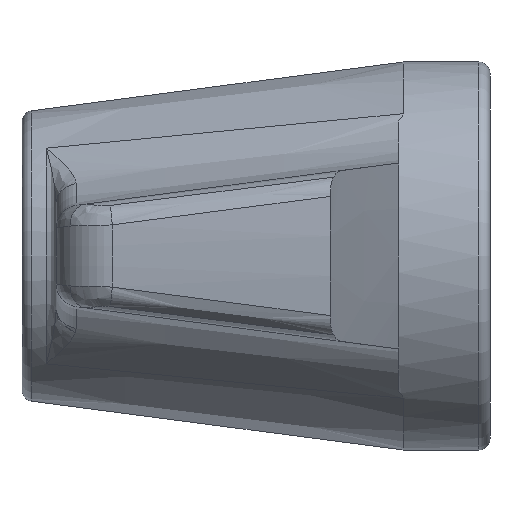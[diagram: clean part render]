
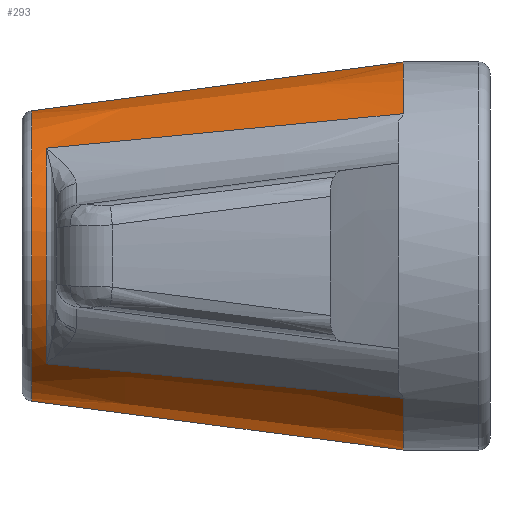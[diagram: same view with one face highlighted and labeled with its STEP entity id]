
A CAD part, left-side view. The second image highlights one B-rep face of the part: STEP entity #293.
In plain terms, the highlighted conical face has half-angle 7.5 degrees and reference radius 6.5 mm.
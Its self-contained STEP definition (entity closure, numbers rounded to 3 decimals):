
#227 = EDGE_CURVE ( 'NONE', #501, #545, #1578, .T. ) ;
#232 = VERTEX_POINT ( 'NONE', #1588 ) ;
#256 = ORIENTED_EDGE ( 'NONE', *, *, #257, .T. ) ;
#257 = EDGE_CURVE ( 'NONE', #269, #258, #1526, .T. ) ;
#258 = VERTEX_POINT ( 'NONE', #1522 ) ;
#267 = ORIENTED_EDGE ( 'NONE', *, *, #268, .F. ) ;
#268 = EDGE_CURVE ( 'NONE', #269, #288, #1633, .T. ) ;
#269 = VERTEX_POINT ( 'NONE', #1628 ) ;
#279 = VERTEX_POINT ( 'NONE', #1604 ) ;
#280 = VERTEX_POINT ( 'NONE', #1603 ) ;
#282 = ORIENTED_EDGE ( 'NONE', *, *, #283, .T. ) ;
#283 = EDGE_CURVE ( 'NONE', #279, #280, #1560, .T. ) ;
#286 = ORIENTED_EDGE ( 'NONE', *, *, #287, .T. ) ;
#287 = EDGE_CURVE ( 'NONE', #280, #288, #1549, .T. ) ;
#288 = VERTEX_POINT ( 'NONE', #1699 ) ;
#293 = ADVANCED_FACE ( 'NONE', ( #1694 ), #1692, .T. ) ;
#294 = EDGE_LOOP ( 'NONE', ( #282, #286, #267, #256, #500, #572, #544, #496 ) ) ;
#444 = EDGE_CURVE ( 'NONE', #545, #232, #1941, .T. ) ;
#496 = ORIENTED_EDGE ( 'NONE', *, *, #573, .F. ) ;
#497 = EDGE_CURVE ( 'NONE', #258, #232, #2116, .T. ) ;
#500 = ORIENTED_EDGE ( 'NONE', *, *, #497, .T. ) ;
#501 = VERTEX_POINT ( 'NONE', #2110 ) ;
#544 = ORIENTED_EDGE ( 'NONE', *, *, #227, .F. ) ;
#545 = VERTEX_POINT ( 'NONE', #2299 ) ;
#572 = ORIENTED_EDGE ( 'NONE', *, *, #444, .F. ) ;
#573 = EDGE_CURVE ( 'NONE', #279, #501, #2260, .T. ) ;
#1522 = CARTESIAN_POINT ( 'NONE',  ( -4.38, 19.435, -4.725 ) ) ;
#1523 = DIRECTION ( 'NONE',  ( 0.089, 0.991, 0.096 ) ) ;
#1524 = VECTOR ( 'NONE', #1523, 1000. ) ;
#1525 = CARTESIAN_POINT ( 'NONE',  ( -4.419, 19., -4.767 ) ) ;
#1526 = LINE ( 'NONE', #1525, #1524 ) ;
#1546 = DIRECTION ( 'NONE',  ( 0., -0.991, -0.131 ) ) ;
#1547 = VECTOR ( 'NONE', #1546, 1000. ) ;
#1548 = CARTESIAN_POINT ( 'NONE',  ( 0., 19., -6.5 ) ) ;
#1549 = LINE ( 'NONE', #1548, #1547 ) ;
#1556 = DIRECTION ( 'NONE',  ( 0., 0., 1. ) ) ;
#1557 = DIRECTION ( 'NONE',  ( 0., -1., 0. ) ) ;
#1558 = CARTESIAN_POINT ( 'NONE',  ( 0., 20.065, 0. ) ) ;
#1559 = AXIS2_PLACEMENT_3D ( 'NONE', #1558, #1557, #1556 ) ;
#1560 = CIRCLE ( 'NONE', #1559, 6.36 ) ;
#1578 = CIRCLE ( 'NONE', #1702, 8.5 ) ;
#1588 = CARTESIAN_POINT ( 'NONE',  ( -4.38, 19.435, 4.725 ) ) ;
#1596 = DIRECTION ( 'NONE',  ( 0., 0., -1. ) ) ;
#1603 = CARTESIAN_POINT ( 'NONE',  ( 0., 20.065, -6.36 ) ) ;
#1604 = CARTESIAN_POINT ( 'NONE',  ( 0., 20.065, 6.36 ) ) ;
#1622 = DIRECTION ( 'NONE',  ( 0., 0., 1. ) ) ;
#1623 = DIRECTION ( 'NONE',  ( 0., -1., 0. ) ) ;
#1624 = CARTESIAN_POINT ( 'NONE',  ( 0., 19., 0. ) ) ;
#1628 = CARTESIAN_POINT ( 'NONE',  ( -5.779, 3.808, -6.233 ) ) ;
#1629 = DIRECTION ( 'NONE',  ( 0., 0., -1. ) ) ;
#1630 = DIRECTION ( 'NONE',  ( 0., -1., 0. ) ) ;
#1631 = CARTESIAN_POINT ( 'NONE',  ( 0., 3.808, 0. ) ) ;
#1632 = AXIS2_PLACEMENT_3D ( 'NONE', #1631, #1630, #1629 ) ;
#1633 = CIRCLE ( 'NONE', #1632, 8.5 ) ;
#1692 = CONICAL_SURFACE ( 'NONE', #1693, 6.5, 0.131 ) ;
#1693 = AXIS2_PLACEMENT_3D ( 'NONE', #1624, #1623, #1622 ) ;
#1694 = FACE_OUTER_BOUND ( 'NONE', #294, .T. ) ;
#1699 = CARTESIAN_POINT ( 'NONE',  ( 0., 3.808, -8.5 ) ) ;
#1700 = DIRECTION ( 'NONE',  ( 0., -1., 0. ) ) ;
#1701 = CARTESIAN_POINT ( 'NONE',  ( 0., 3.808, 0. ) ) ;
#1702 = AXIS2_PLACEMENT_3D ( 'NONE', #1701, #1700, #1596 ) ;
#1941 = LINE ( 'NONE', #1963, #1962 ) ;
#1961 = DIRECTION ( 'NONE',  ( 0.089, 0.991, -0.096 ) ) ;
#1962 = VECTOR ( 'NONE', #1961, 1000. ) ;
#1963 = CARTESIAN_POINT ( 'NONE',  ( -4.419, 19., 4.767 ) ) ;
#2110 = CARTESIAN_POINT ( 'NONE',  ( 0., 3.808, 8.5 ) ) ;
#2112 = DIRECTION ( 'NONE',  ( 0., 0., -1. ) ) ;
#2113 = DIRECTION ( 'NONE',  ( 0., 1., 0. ) ) ;
#2114 = CARTESIAN_POINT ( 'NONE',  ( 0., 19.435, 0. ) ) ;
#2115 = AXIS2_PLACEMENT_3D ( 'NONE', #2114, #2113, #2112 ) ;
#2116 = CIRCLE ( 'NONE', #2115, 6.443 ) ;
#2257 = DIRECTION ( 'NONE',  ( 0., -0.991, 0.131 ) ) ;
#2258 = VECTOR ( 'NONE', #2257, 1000. ) ;
#2259 = CARTESIAN_POINT ( 'NONE',  ( 0., 19., 6.5 ) ) ;
#2260 = LINE ( 'NONE', #2259, #2258 ) ;
#2299 = CARTESIAN_POINT ( 'NONE',  ( -5.779, 3.808, 6.233 ) ) ;
